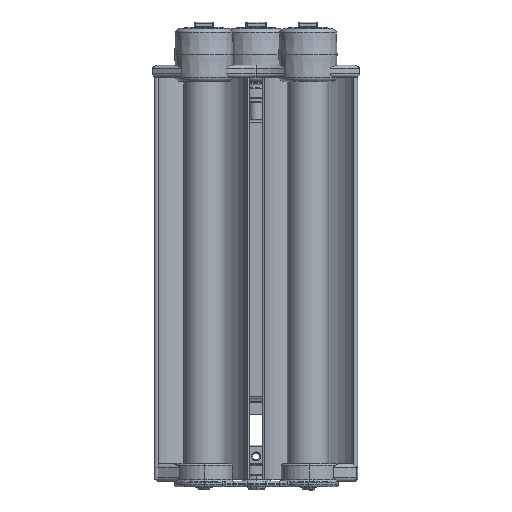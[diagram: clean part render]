
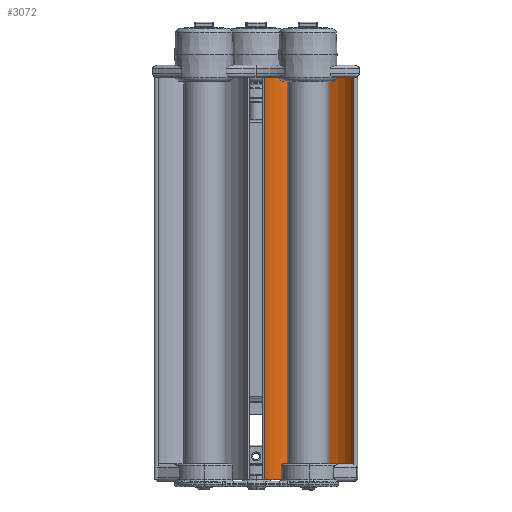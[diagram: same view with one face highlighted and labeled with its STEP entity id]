
A CAD part, front view. The second image highlights one B-rep face of the part: STEP entity #3072.
In plain terms, the highlighted cylindrical face has radius 73.187 mm (diameter 146.374 mm), a partial arc.
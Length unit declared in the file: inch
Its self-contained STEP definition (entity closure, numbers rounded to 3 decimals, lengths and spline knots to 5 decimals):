
#262 = AXIS2_PLACEMENT_3D ( 'NONE', #630, #631, #632 ) ;
#630 = CARTESIAN_POINT ( 'NONE',  ( 0.04379, -1.11468, 23.125 ) ) ;
#631 = DIRECTION ( 'NONE',  ( 0., 0., 1. ) ) ;
#632 = DIRECTION ( 'NONE',  ( 1., 0., 0. ) ) ;
#634 = CARTESIAN_POINT ( 'NONE',  ( 2.70198, -0.00277, 23.125 ) ) ;
#635 = DIRECTION ( 'NONE',  ( 0., 0., -1. ) ) ;
#2022 = DIRECTION ( 'NONE',  ( 0., 0., -1. ) ) ;
#2169 = CARTESIAN_POINT ( 'NONE',  ( -2.52195, 0.19654, 23.125 ) ) ;
#3072 = ADVANCED_FACE ( 'NONE', ( #8439 ), #8440, .F. ) ;
#4292 = VERTEX_POINT ( 'NONE', #22660 ) ;
#4296 = VERTEX_POINT ( 'NONE', #22656 ) ;
#4302 = VERTEX_POINT ( 'NONE', #22645 ) ;
#4937 = AXIS2_PLACEMENT_3D ( 'NONE', #9460, #9457, #9428 ) ;
#5288 = EDGE_LOOP ( 'NONE', ( #24185, #24197, #24154, #24145 ) ) ;
#7866 = CARTESIAN_POINT ( 'NONE',  ( 0.04379, -1.11468, 23.125 ) ) ;
#7867 = DIRECTION ( 'NONE',  ( 0., 0., -1. ) ) ;
#7868 = DIRECTION ( 'NONE',  ( -1., 0., 0. ) ) ;
#8296 = VECTOR ( 'NONE', #635, 39.37008 ) ;
#8297 = LINE ( 'NONE', #634, #8296 ) ;
#8439 = FACE_OUTER_BOUND ( 'NONE', #5288, .T. ) ;
#8440 = CYLINDRICAL_SURFACE ( 'NONE', #8672, 2.88138 ) ;
#8672 = AXIS2_PLACEMENT_3D ( 'NONE', #7866, #7867, #7868 ) ;
#9428 = DIRECTION ( 'NONE',  ( 1., 0., 0. ) ) ;
#9457 = DIRECTION ( 'NONE',  ( 0., 0., 1. ) ) ;
#9460 = CARTESIAN_POINT ( 'NONE',  ( 0.04379, -1.11468, 0. ) ) ;
#10659 = CIRCLE ( 'NONE', #4937, 2.88138 ) ;
#14277 = CARTESIAN_POINT ( 'NONE',  ( 2.70198, -0.00277, 23.125 ) ) ;
#14881 = EDGE_CURVE ( 'NONE', #4302, #4292, #22723, .T. ) ;
#15057 = EDGE_CURVE ( 'NONE', #18140, #4302, #22603, .T. ) ;
#15064 = EDGE_CURVE ( 'NONE', #18140, #4296, #8297, .T. ) ;
#15245 = EDGE_CURVE ( 'NONE', #4296, #4292, #10659, .T. ) ;
#18140 = VERTEX_POINT ( 'NONE', #14277 ) ;
#22603 = CIRCLE ( 'NONE', #262, 2.88138 ) ;
#22645 = CARTESIAN_POINT ( 'NONE',  ( -2.52195, 0.19654, 23.125 ) ) ;
#22656 = CARTESIAN_POINT ( 'NONE',  ( 2.70198, -0.00277, 0. ) ) ;
#22660 = CARTESIAN_POINT ( 'NONE',  ( -2.52195, 0.19654, 0. ) ) ;
#22722 = VECTOR ( 'NONE', #2022, 39.37008 ) ;
#22723 = LINE ( 'NONE', #2169, #22722 ) ;
#24145 = ORIENTED_EDGE ( 'NONE', *, *, #14881, .T. ) ;
#24154 = ORIENTED_EDGE ( 'NONE', *, *, #15057, .T. ) ;
#24185 = ORIENTED_EDGE ( 'NONE', *, *, #15245, .F. ) ;
#24197 = ORIENTED_EDGE ( 'NONE', *, *, #15064, .F. ) ;
